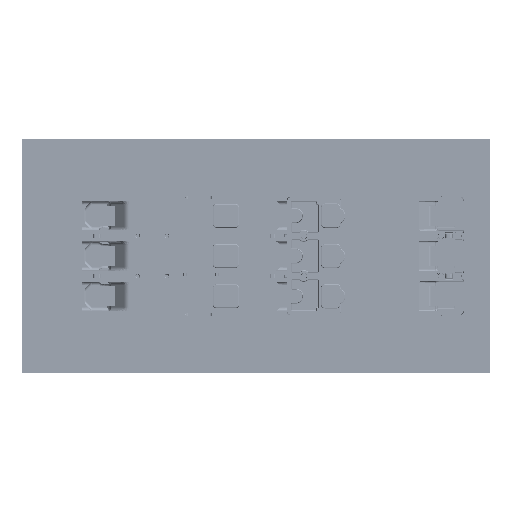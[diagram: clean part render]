
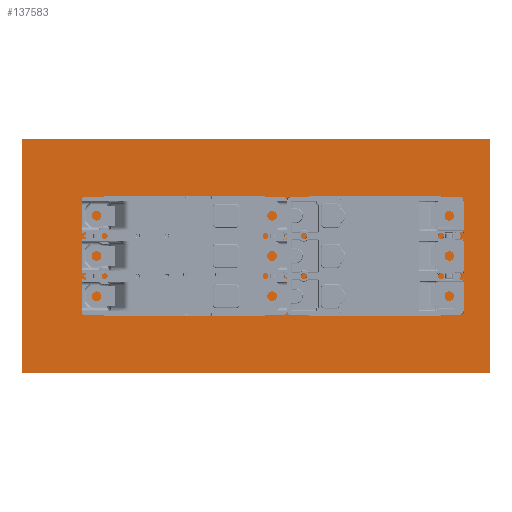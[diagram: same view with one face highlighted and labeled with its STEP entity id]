
A CAD part, front view. The second image highlights one B-rep face of the part: STEP entity #137583.
In plain terms, the highlighted planar face has unit normal (0, -1, 0).
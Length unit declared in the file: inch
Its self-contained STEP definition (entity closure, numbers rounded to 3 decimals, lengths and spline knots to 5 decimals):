
#137282=DIRECTION('',(1.,0.,0.));
#137283=VECTOR('',#137282,16.);
#137284=CARTESIAN_POINT('',(-6.,0.,4.));
#137285=LINE('',#137284,#137283);
#137286=DIRECTION('',(0.,0.,-1.));
#137287=VECTOR('',#137286,8.);
#137288=CARTESIAN_POINT('',(10.,0.,4.));
#137289=LINE('',#137288,#137287);
#137290=DIRECTION('',(-1.,0.,0.));
#137291=VECTOR('',#137290,16.);
#137292=CARTESIAN_POINT('',(10.,0.,-4.));
#137293=LINE('',#137292,#137291);
#137294=DIRECTION('',(0.,0.,1.));
#137295=VECTOR('',#137294,8.);
#137296=CARTESIAN_POINT('',(-6.,0.,-4.));
#137297=LINE('',#137296,#137295);
#137298=DIRECTION('',(-1.,0.,0.));
#137299=VECTOR('',#137298,2.875);
#137300=CARTESIAN_POINT('',(0.986,0.,-0.625));
#137301=LINE('',#137300,#137299);
#137302=DIRECTION('',(0.,0.,1.));
#137303=VECTOR('',#137302,1.375);
#137304=CARTESIAN_POINT('',(0.986,0.,-2.));
#137305=LINE('',#137304,#137303);
#137306=DIRECTION('',(-1.,0.,0.));
#137307=VECTOR('',#137306,1.062);
#137308=CARTESIAN_POINT('',(2.048,0.,-2.));
#137309=LINE('',#137308,#137307);
#137310=DIRECTION('',(0.,0.,-1.));
#137311=VECTOR('',#137310,4.);
#137312=CARTESIAN_POINT('',(2.048,0.,2.));
#137313=LINE('',#137312,#137311);
#137314=DIRECTION('',(1.,0.,0.));
#137315=VECTOR('',#137314,1.062);
#137316=CARTESIAN_POINT('',(0.986,0.,2.));
#137317=LINE('',#137316,#137315);
#137318=DIRECTION('',(0.,0.,1.));
#137319=VECTOR('',#137318,1.094);
#137320=CARTESIAN_POINT('',(0.986,0.,0.906));
#137321=LINE('',#137320,#137319);
#137322=DIRECTION('',(1.,0.,0.));
#137323=VECTOR('',#137322,0.5);
#137324=CARTESIAN_POINT('',(0.486,0.,0.906));
#137325=LINE('',#137324,#137323);
#137326=DIRECTION('',(0.,0.,1.));
#137327=VECTOR('',#137326,0.281);
#137328=CARTESIAN_POINT('',(0.486,0.,0.625));
#137329=LINE('',#137328,#137327);
#137330=DIRECTION('',(1.,0.,0.));
#137331=VECTOR('',#137330,2.375);
#137332=CARTESIAN_POINT('',(-1.889,0.,0.625));
#137333=LINE('',#137332,#137331);
#137334=CARTESIAN_POINT('',(-1.889,0.,0.437));
#137335=DIRECTION('',(0.,1.,0.));
#137336=DIRECTION('',(-1.,0.,0.));
#137337=AXIS2_PLACEMENT_3D('',#137334,#137335,#137336);
#137339=DIRECTION('',(0.,0.,1.));
#137340=VECTOR('',#137339,0.874);
#137341=CARTESIAN_POINT('',(-2.077,0.,-0.437));
#137342=LINE('',#137341,#137340);
#137343=CARTESIAN_POINT('',(-1.889,0.,-0.437));
#137344=DIRECTION('',(0.,1.,0.));
#137345=DIRECTION('',(0.,0.,-1.));
#137346=AXIS2_PLACEMENT_3D('',#137343,#137344,#137345);
#137478=CARTESIAN_POINT('',(-6.,0.,4.));
#137479=CARTESIAN_POINT('',(10.,0.,4.));
#137480=VERTEX_POINT('',#137478);
#137481=VERTEX_POINT('',#137479);
#137482=CARTESIAN_POINT('',(10.,0.,-4.));
#137483=VERTEX_POINT('',#137482);
#137484=CARTESIAN_POINT('',(-6.,0.,-4.));
#137485=VERTEX_POINT('',#137484);
#137494=CARTESIAN_POINT('',(0.986,0.,-0.625));
#137495=CARTESIAN_POINT('',(-1.889,0.,-0.625));
#137496=VERTEX_POINT('',#137494);
#137497=VERTEX_POINT('',#137495);
#137498=CARTESIAN_POINT('',(-2.077,0.,-0.437));
#137499=CARTESIAN_POINT('',(-2.077,0.,0.437));
#137500=VERTEX_POINT('',#137498);
#137501=VERTEX_POINT('',#137499);
#137502=CARTESIAN_POINT('',(-1.889,0.,0.625));
#137503=CARTESIAN_POINT('',(0.486,0.,0.625));
#137504=VERTEX_POINT('',#137502);
#137505=VERTEX_POINT('',#137503);
#137506=CARTESIAN_POINT('',(0.986,0.,0.906));
#137507=CARTESIAN_POINT('',(0.986,0.,2.));
#137508=VERTEX_POINT('',#137506);
#137509=VERTEX_POINT('',#137507);
#137510=CARTESIAN_POINT('',(2.048,0.,2.));
#137511=VERTEX_POINT('',#137510);
#137512=CARTESIAN_POINT('',(2.048,0.,-2.));
#137513=VERTEX_POINT('',#137512);
#137514=CARTESIAN_POINT('',(0.986,0.,-2.));
#137515=VERTEX_POINT('',#137514);
#137538=CARTESIAN_POINT('',(0.486,0.,0.906));
#137539=VERTEX_POINT('',#137538);
#137542=CARTESIAN_POINT('',(0.,0.,0.));
#137543=DIRECTION('',(0.,1.,0.));
#137544=DIRECTION('',(1.,0.,0.));
#137545=AXIS2_PLACEMENT_3D('',#137542,#137543,#137544);
#137546=PLANE('',#137545);
#137548=ORIENTED_EDGE('',*,*,#137547,.T.);
#137550=ORIENTED_EDGE('',*,*,#137549,.T.);
#137552=ORIENTED_EDGE('',*,*,#137551,.T.);
#137554=ORIENTED_EDGE('',*,*,#137553,.T.);
#137555=EDGE_LOOP('',(#137548,#137550,#137552,#137554));
#137556=FACE_OUTER_BOUND('',#137555,.F.);
#137558=ORIENTED_EDGE('',*,*,#137557,.F.);
#137560=ORIENTED_EDGE('',*,*,#137559,.F.);
#137562=ORIENTED_EDGE('',*,*,#137561,.F.);
#137564=ORIENTED_EDGE('',*,*,#137563,.F.);
#137566=ORIENTED_EDGE('',*,*,#137565,.F.);
#137568=ORIENTED_EDGE('',*,*,#137567,.F.);
#137570=ORIENTED_EDGE('',*,*,#137569,.F.);
#137572=ORIENTED_EDGE('',*,*,#137571,.F.);
#137574=ORIENTED_EDGE('',*,*,#137573,.F.);
#137576=ORIENTED_EDGE('',*,*,#137575,.F.);
#137578=ORIENTED_EDGE('',*,*,#137577,.F.);
#137580=ORIENTED_EDGE('',*,*,#137579,.F.);
#137581=EDGE_LOOP('',(#137558,#137560,#137562,#137564,#137566,#137568,#137570,
#137572,#137574,#137576,#137578,#137580));
#137582=FACE_BOUND('',#137581,.F.);
#137583=ADVANCED_FACE('',(#137556,#137582),#137546,.F.);
#137338=CIRCLE('',#137337,0.188);
#137347=CIRCLE('',#137346,0.188);
#137547=EDGE_CURVE('',#137480,#137481,#137285,.T.);
#137549=EDGE_CURVE('',#137481,#137483,#137289,.T.);
#137551=EDGE_CURVE('',#137483,#137485,#137293,.T.);
#137553=EDGE_CURVE('',#137485,#137480,#137297,.T.);
#137557=EDGE_CURVE('',#137496,#137497,#137301,.T.);
#137559=EDGE_CURVE('',#137515,#137496,#137305,.T.);
#137561=EDGE_CURVE('',#137513,#137515,#137309,.T.);
#137563=EDGE_CURVE('',#137511,#137513,#137313,.T.);
#137565=EDGE_CURVE('',#137509,#137511,#137317,.T.);
#137567=EDGE_CURVE('',#137508,#137509,#137321,.T.);
#137569=EDGE_CURVE('',#137539,#137508,#137325,.T.);
#137571=EDGE_CURVE('',#137505,#137539,#137329,.T.);
#137573=EDGE_CURVE('',#137504,#137505,#137333,.T.);
#137575=EDGE_CURVE('',#137501,#137504,#137338,.T.);
#137577=EDGE_CURVE('',#137500,#137501,#137342,.T.);
#137579=EDGE_CURVE('',#137497,#137500,#137347,.T.);
